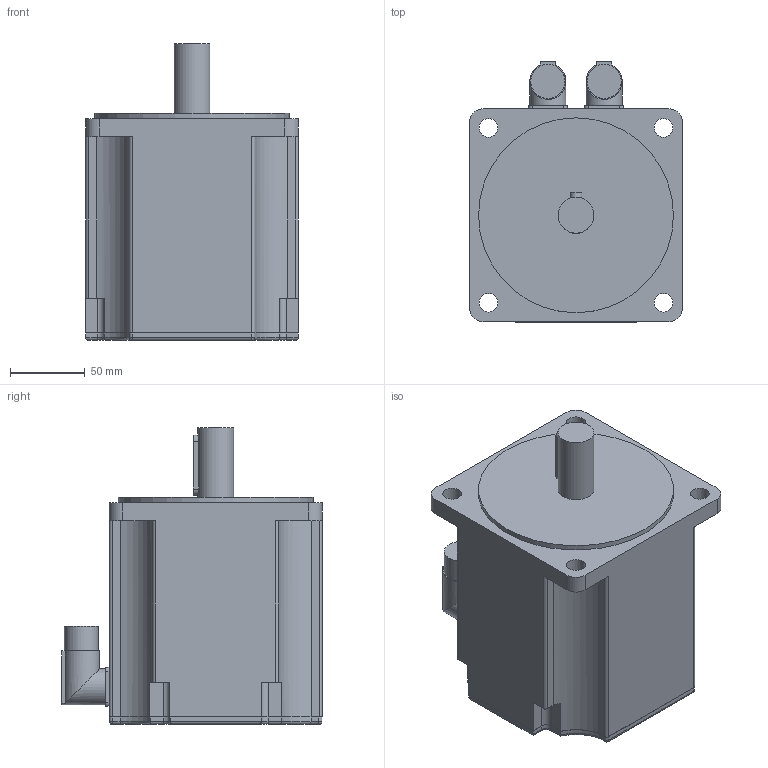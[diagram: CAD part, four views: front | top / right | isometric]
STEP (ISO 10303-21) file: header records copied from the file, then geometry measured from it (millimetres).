
FILE_DESCRIPTION(/* description */ (''),/* implementation_level */ '2;1');
FILE_NAME(/* name */ '\\Lafnas01\disegni\Archivi Lafert\3D\CAD 3D\MODELLI\Assiemi clienti\Serad\Modelli 3D Serad\B71Q\Resolver\Res Without Brake\B7104Qxx6A052033.ipt.stp',/* time_stamp */ '2015-09-07T10:52:58+02:00',/* author */ ('Pastrello Ylenia'),/* organization */ (''),/* preprocessor_version */ 'ST-DEVELOPER v15.6',/* originating_system */ 'Autodesk Inventor 2015',/* authorisation */ '');
FILE_SCHEMA (('AUTOMOTIVE_DESIGN { 1 0 10303 214 3 1 1 }'));
Length unit declared in the file: millimetre
Products named in the file (1): B7104Qxx6A052033
Bounding box: 142 x 173.5 x 198 mm (x, y, z)
Volume: 2704824.1 mm3; surface area: 132020 mm2
Topology: 1 solids, 1 shells, 154 faces, 400 edges, 258 vertices
Faces by surface type: plane 72, cylinder 70, torus 8, sphere 4
Full cylindrical faces by diameter (mm): 12.5 x4, 22.7 x2, 24 x3, 130 x1
Entity records: 4790 total; most frequent: CARTESIAN_POINT 933, DIRECTION 828, ORIENTED_EDGE 772, EDGE_CURVE 386, AXIS2_PLACEMENT_3D 297, VERTEX_POINT 254, LINE 234, VECTOR 234
